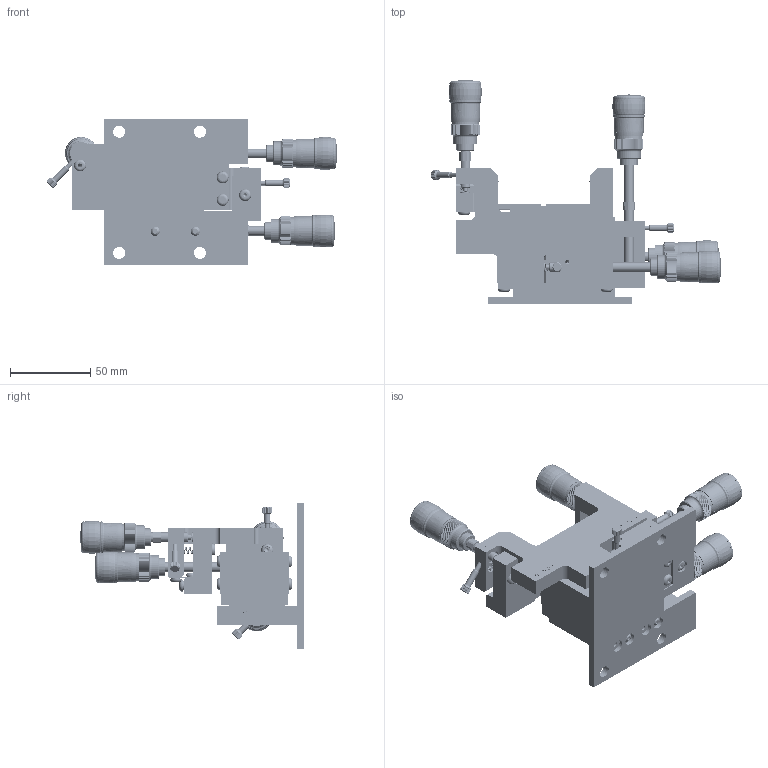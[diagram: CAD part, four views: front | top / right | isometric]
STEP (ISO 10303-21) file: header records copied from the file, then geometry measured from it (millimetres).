
FILE_DESCRIPTION (( 'STEP AP203' ), '1' );
FILE_NAME ('MBT401D_M.STEP', '2015-03-25T14:36:34', ( '' ), ( '' ), 'SwSTEP 2.0', 'SolidWorks 2014', '' );
FILE_SCHEMA (( 'CONFIG_CONTROL_DESIGN' ));
Length unit declared in the file: millimetre
Products named in the file (57): DG0085 - 1 x 3 Stainless steel Dowel; 136324 - Plate; 131135 - Zed Flexure; 130044 - Bearing Rail; DB0019 - M3x12 Socket Head Cap Screw_B18.3.1M - 3 x 0.5 x 12 Hex SHCS -- 12NHX; 131134-LEA; 137529 - DRV3 for MBT4xx 75mm Rod; 135946 - Cone Spring_COMPRESSED; 136322 - Nose; 136537 - MBT6 Long Lock Screw; 137818 - Lock Screw Mount; MBT401D_M; 131136 - Moving Y Bracket D6; 137524 - Drive Rod 48mm; DA0161 - M1.6 x 2 skt set screw; CF0003 - 2mm Ball; 137819 - Short Fat Lock Screw; DF0015 - M4 Spring Washer_Config 1; 131144 - Screw; 134434 - Drive Screw 45mm; 134160 - Base DM2; 134431 - Y Drive Screw 32mm; 136323 - Plunger; 136452 - Fulcrum Diff Body - MBT6XY; DB0173 - M4 x 8 Skt Btn; 131022 - 6mm HardPad; 137528 - DRV3 for MBT4xx 48mm Rod; 130031 - Base TS50; DB0204 - M3x5 Skt Set_B18.3.6M - M3 x 0.5 x 3 Hex Socket Flat Pt. SS --N; DG0106 - 1mm dia x 4mm dowel pin; 136321 - Fulcrum Nut; DB0008 - M2.5 X 8 Skt Cap; CG0027 - Spring L14 - 28mm; 137531 - M9 Bush with Hole; 130031-LEA; 134286 - Lock Nut; CG0193 - 1.5 x 5.8 Roller; 136325 - Fulcrum Fine Drive Screw; DB0172 - M4 x 6 Skt Btn; CG0027 - Spring L14 - 25mm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
Assembly tree (174 placements, depth 3):
  MBT401D_M
    134160 - Base DM2
    130031-LEA
      130031 - Base TS50
    131133-LEB - Moving Yaw Bracket Metric LE
      131133 - Moving Yaw Bracket
    131134-LEA
      131134 - Moving Zed Bracket
    131136 - Moving Y Bracket D6
    131144 - Screw  x3
    131022 - 6mm HardPad  x4
    CG0027 - Spring L14 - 28mm  x2
    CG0027 - Spring L14 - 25mm
    130032 - Carriage TS50-12 C8
    131131 - Platform
    130044 - Bearing Rail
    137818 - Lock Screw Mount
    DF0015 - M4 Spring Washer_Config 1  x6
    DB0173 - M4 x 8 Skt Btn  x6
    DB0008 - M2.5 X 8 Skt Cap  x2
    DB0172 - M4 x 6 Skt Btn  x8
    DB0163 - M3x0.5x6 Skt Buttn ISO_bhcm_M3x0.5_6.0_6.0_He_Sim_1  x2
    131132 - Flexure  x8
    131135 - Zed Flexure  x2
    136537 - MBT6 Long Lock Screw  x2
    137819 - Short Fat Lock Screw  x2
    137527 - DRV3 for MBT4xx 35mm Rod
      136452 - Fulcrum Diff Body - MBT6XY
      136321 - Fulcrum Nut
      136325 - Fulcrum Fine Drive Screw
      131028 - DRV3 4mm Hard Pad
      137523 - Drive Rod 35mm
      136324 - Plate
      136322 - Nose
      CF0003 - 2mm Ball  x4
      136323 - Plunger
      DG0106 - 1mm dia x 4mm dowel pin  x3
      CG0193 - 1.5 x 5.8 Roller  x3
      136326 - Fulcrum Knob
      135949 - Rubber Grip
      DG0085 - 1 x 3 Stainless steel Dowel  x2
      135946 - Cone Spring_COMPRESSED
      DA0161 - M1.6 x 2 skt set screw  x2
      134431 - Y Drive Screw 32mm
      DB0204 - M3x5 Skt Set_B18.3.6M - M3 x 0.5 x 3 Hex Socket Flat Pt. SS --N
      134286 - Lock Nut  x2
    137529 - DRV3 for MBT4xx 75mm Rod  x2
      136452 - Fulcrum Diff Body - MBT6XY
      136321 - Fulcrum Nut
      136325 - Fulcrum Fine Drive Screw
      131028 - DRV3 4mm Hard Pad
      137525 - Drive Rod 75mm
      136324 - Plate
      136322 - Nose
      CF0003 - 2mm Ball
      136323 - Plunger
      DG0106 - 1mm dia x 4mm dowel pin
      CG0193 - 1.5 x 5.8 Roller
      136326 - Fulcrum Knob
      135949 - Rubber Grip
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Bounding box: 181.22 x 139.65 x 91 mm (x, y, z)
Volume: 257604.7 mm3; surface area: 159211.1 mm2
Topology: 196 solids, 196 shells, 6742 faces, 17078 edges, 10822 vertices
Faces by surface type: plane 3161, cylinder 2002, cone 899, torus 426, bspline 168, sphere 86
Entity records: 112248 total; most frequent: CARTESIAN_POINT 41802, DIRECTION 12836, ORIENTED_EDGE 12688, EDGE_CURVE 6344, AXIS2_PLACEMENT_3D 4958, VERTEX_POINT 4099, VECTOR 2920, LINE 2920
